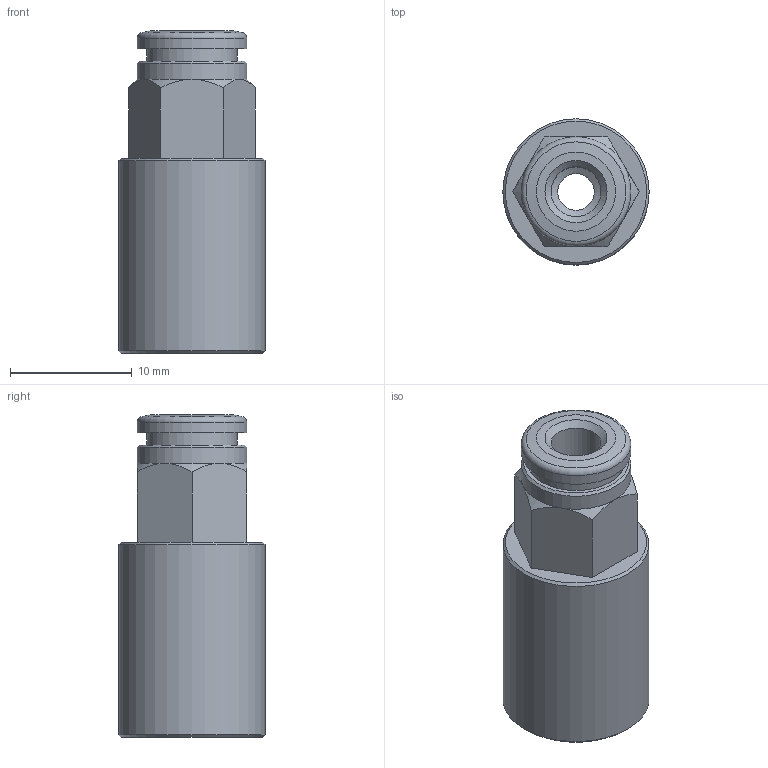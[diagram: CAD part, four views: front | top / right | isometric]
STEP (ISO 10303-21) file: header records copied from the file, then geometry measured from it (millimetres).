
FILE_DESCRIPTION(('Bauteilbeschreibung','HiCAD-Model','HiCAD-STEP-TRANSLATION','Bauteilbeschreibung'),'2;1');
FILE_NAME('B:/ABGLEICH/ZEICHNUNGEN/STEP FÜR INTERNET/STEP/IPSO 02/200201_IPSO_02_4_1-8.STP','2012-04-23T10:39:42+00:00',('Konstrukteur'),('Konstrukteur Firma GmbH'),' HiCAD neXt 2008, Step 3.1.1401.2J ','HiCAD neXt 2008','confidential');
FILE_SCHEMA(('AUTOMOTIVE_DESIGN { 1 2 10303 214 0 1 1 1 }'));
Length unit declared in the file: millimetre
Products named in the file (5): A00201_IPSO_02_4_1_8; DR4_1_NEU; R200201_N; R2002010N; G 1_8
Assembly tree (4 placements, depth 3):
  A00201_IPSO_02_4_1_8
    DR4_1_NEU
    R200201_N
    R2002010N
      G 1_8
Bounding box: 12 x 12 x 26.5 mm (x, y, z)
Volume: 1589.4 mm3; surface area: 2310.2 mm2
Topology: 3 solids, 3 shells, 50 faces, 103 edges, 62 vertices
Faces by surface type: cone 20, plane 15, cylinder 14, torus 1
Full cylindrical faces by diameter (mm): 3 x1, 4.1 x2, 6.4 x1, 7.3 x1, 7.4 x1, 7.6 x1, 8.566 x2, 9 x2, 9.728 x2, 12 x1
Entity records: 1565 total; most frequent: DIRECTION 214, CARTESIAN_POINT 204, ORIENTED_EDGE 134, AXIS2_PLACEMENT_3D 101, EDGE_LOOP 88, COLOUR_RGB 70, PRESENTATION_STYLE_ASSIGNMENT 70, CURVE_STYLE 67
